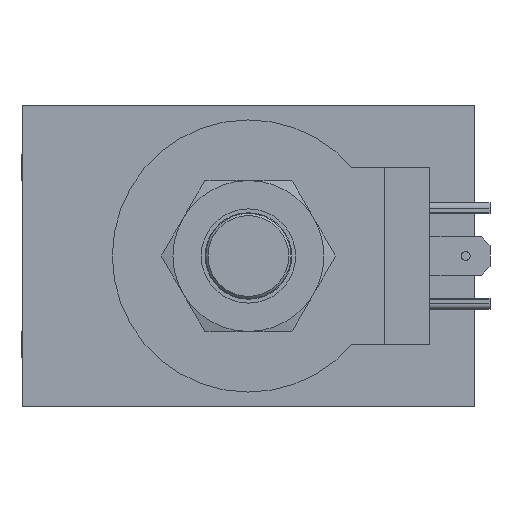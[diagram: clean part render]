
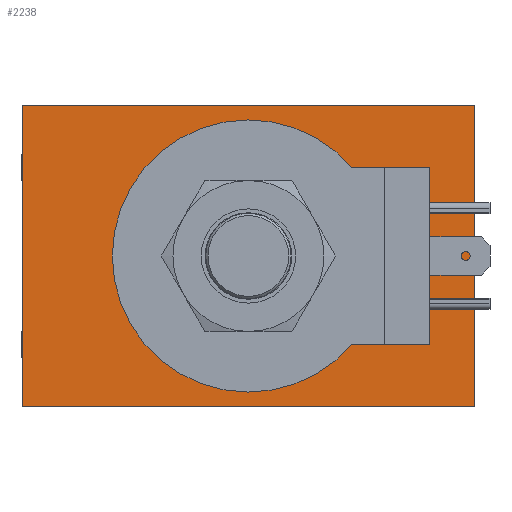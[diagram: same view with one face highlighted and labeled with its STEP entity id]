
A CAD part, left-side view. The second image highlights one B-rep face of the part: STEP entity #2238.
In plain terms, the highlighted planar face has unit normal (-1, 0, 0).
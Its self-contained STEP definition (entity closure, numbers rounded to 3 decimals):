
#2238 = ADVANCED_FACE( '', ( #5252, #5253 ), #5254, .T. );
#5252 = FACE_BOUND( '', #9470, .T. );
#5253 = FACE_OUTER_BOUND( '', #9471, .T. );
#5254 = PLANE( '', #9472 );
#9470 = EDGE_LOOP( '', ( #14970 ) );
#9471 = EDGE_LOOP( '', ( #14971, #14972, #14973, #14974 ) );
#9472 = AXIS2_PLACEMENT_3D( '', #14975, #14976, #14977 );
#14970 = ORIENTED_EDGE( '', *, *, #25721, .T. );
#14971 = ORIENTED_EDGE( '', *, *, #25722, .F. );
#14972 = ORIENTED_EDGE( '', *, *, #25723, .F. );
#14973 = ORIENTED_EDGE( '', *, *, #25724, .T. );
#14974 = ORIENTED_EDGE( '', *, *, #25725, .T. );
#14975 = CARTESIAN_POINT( '', ( -63.5, -38.1, 50.8 ) );
#14976 = DIRECTION( '', ( -1., 0., 0. ) );
#14977 = DIRECTION( '', ( 0., -1., 0. ) );
#25721 = EDGE_CURVE( '', #30978, #30978, #30979, .T. );
#25722 = EDGE_CURVE( '', #30980, #30981, #30982, .T. );
#25723 = EDGE_CURVE( '', #30983, #30980, #30984, .T. );
#25724 = EDGE_CURVE( '', #30983, #30985, #30986, .T. );
#25725 = EDGE_CURVE( '', #30985, #30981, #30987, .T. );
#30978 = VERTEX_POINT( '', #39885 );
#30979 = CIRCLE( '', #39886, 20.638 );
#30980 = VERTEX_POINT( '', #39887 );
#30981 = VERTEX_POINT( '', #39888 );
#30982 = LINE( '', #39889, #39890 );
#30983 = VERTEX_POINT( '', #39891 );
#30984 = LINE( '', #39892, #39893 );
#30985 = VERTEX_POINT( '', #39894 );
#30986 = LINE( '', #39895, #39896 );
#30987 = LINE( '', #39897, #39898 );
#39885 = CARTESIAN_POINT( '', ( -63.5, -20.638, 25.4 ) );
#39886 = AXIS2_PLACEMENT_3D( '', #49835, #49836, #49837 );
#39887 = CARTESIAN_POINT( '', ( -63.5, -38.1, 0. ) );
#39888 = CARTESIAN_POINT( '', ( -63.5, 38.1, 0. ) );
#39889 = CARTESIAN_POINT( '', ( -63.5, -38.1, 0. ) );
#39890 = VECTOR( '', #49838, 1000. );
#39891 = CARTESIAN_POINT( '', ( -63.5, -38.1, 50.8 ) );
#39892 = CARTESIAN_POINT( '', ( -63.5, -38.1, 50.8 ) );
#39893 = VECTOR( '', #49839, 1000. );
#39894 = CARTESIAN_POINT( '', ( -63.5, 38.1, 50.8 ) );
#39895 = CARTESIAN_POINT( '', ( -63.5, -38.1, 50.8 ) );
#39896 = VECTOR( '', #49840, 1000. );
#39897 = CARTESIAN_POINT( '', ( -63.5, 38.1, 50.8 ) );
#39898 = VECTOR( '', #49841, 1000. );
#49835 = CARTESIAN_POINT( '', ( -63.5, 0., 25.4 ) );
#49836 = DIRECTION( '', ( 1., 0., 0. ) );
#49837 = DIRECTION( '', ( 0., -1., 0. ) );
#49838 = DIRECTION( '', ( 0., 1., 0. ) );
#49839 = DIRECTION( '', ( 0., 0., -1. ) );
#49840 = DIRECTION( '', ( 0., 1., 0. ) );
#49841 = DIRECTION( '', ( 0., 0., -1. ) );
